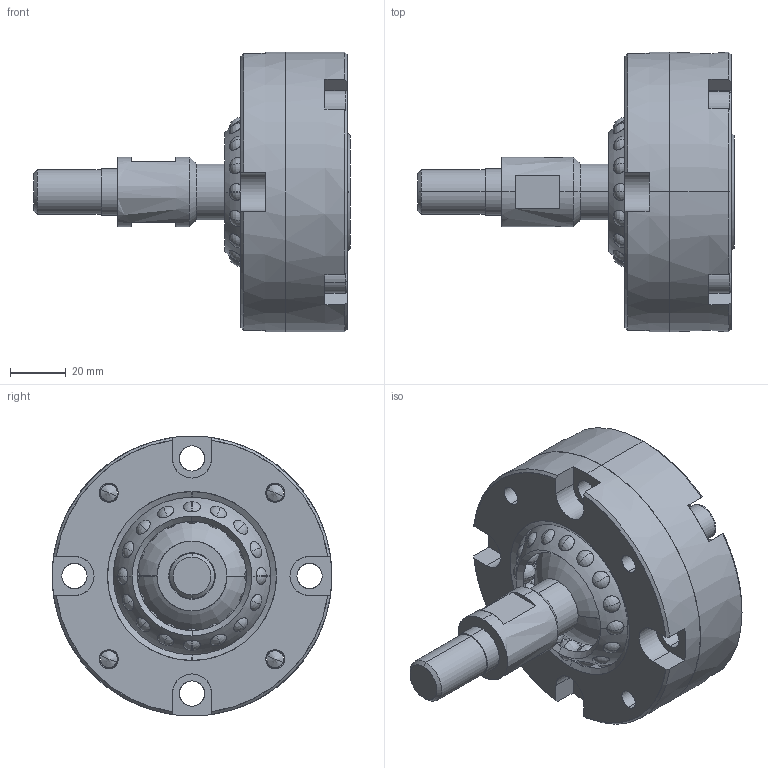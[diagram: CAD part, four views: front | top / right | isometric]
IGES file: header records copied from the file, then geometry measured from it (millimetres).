
Start section: SolidWorks IGES file using analytic representation for surfaces
Global section: file name: C:\Users\render\Documents\CAD Files\SRJ\SRJ032C\SR JOINT - SRJ032C.IGS; native system: SolidWorks 2009; preprocessor: SolidWorks 2009; author: render; date: 100601.155008; units: millimetre
Bounding box: 113 x 100 x 100 mm (x, y, z)
Surface area: 75346.6 mm2 (no closed solid volume)
Topology: 0 solids, 0 shells, 382 faces, 12291 edges, 12130 vertices
Faces by surface type: revolution 292, bspline 90
